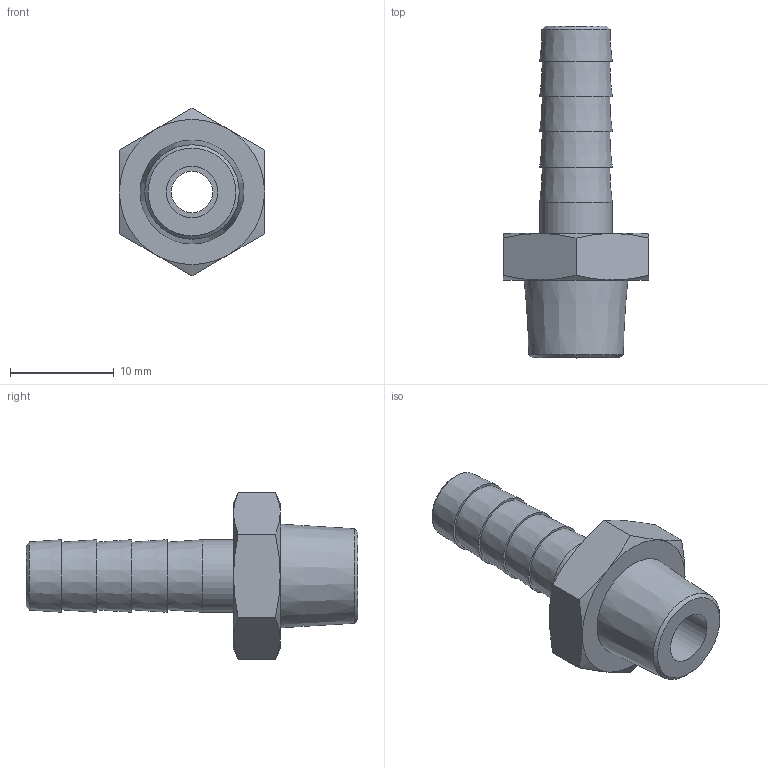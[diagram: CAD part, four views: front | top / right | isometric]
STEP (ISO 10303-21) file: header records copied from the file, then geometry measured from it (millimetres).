
FILE_DESCRIPTION(/* description */ (''),/* implementation_level */ '2;1');
FILE_NAME(/* name */ 'BXH09 07B1 00.stp',/* time_stamp */ '2026-06-22T11:33:48+02:00',/* author */ ('freju'),/* organization */ (''),/* preprocessor_version */ 'ST-DEVELOPER v20.1',/* originating_system */ 'Autodesk Inventor 2026',/* authorisation */ '');
FILE_SCHEMA (('AUTOMOTIVE_DESIGN { 1 0 10303 214 3 1 1 }'));
Length unit declared in the file: millimetre
Products named in the file (1): BXH09 07B1 00
Bounding box: 14 x 32 x 16.17 mm (x, y, z)
Volume: 1547.1 mm3; surface area: 1600 mm2
Topology: 1 solids, 1 shells, 38 faces, 75 edges, 46 vertices
Faces by surface type: cone 20, plane 15, cylinder 3
Full cylindrical faces by diameter (mm): 4 x1, 5 x1, 7 x1
Entity records: 1000 total; most frequent: CARTESIAN_POINT 208, DIRECTION 163, ORIENTED_EDGE 150, EDGE_CURVE 75, AXIS2_PLACEMENT_3D 73, EDGE_LOOP 47, VERTEX_POINT 46, FACE_OUTER_BOUND 38
